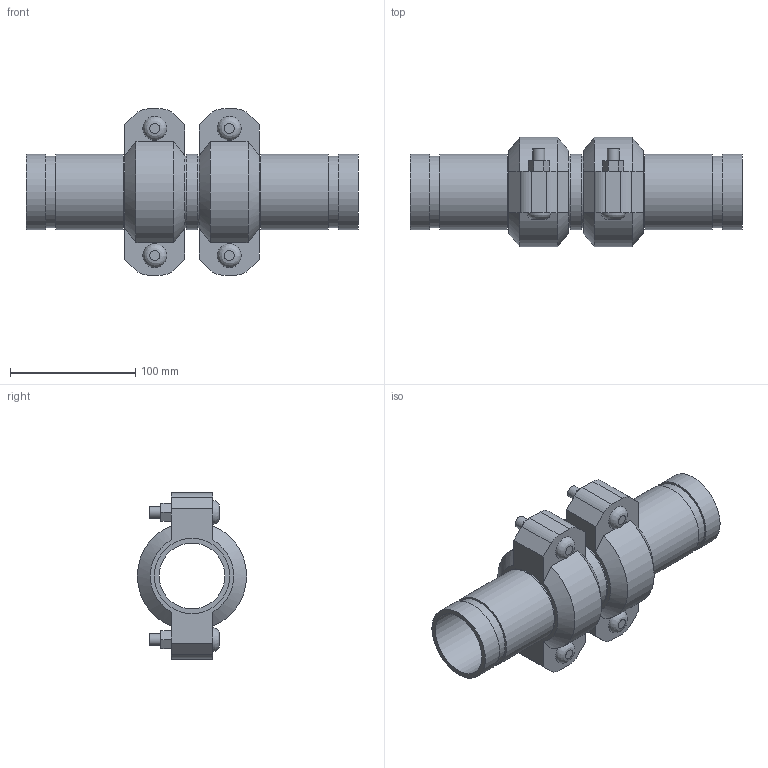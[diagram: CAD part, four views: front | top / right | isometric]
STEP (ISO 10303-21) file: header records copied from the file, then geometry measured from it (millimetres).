
FILE_DESCRIPTION(/* description */ ('VIC SS EXPANSION JOINT 2 COUPLINGS NEUTRAL STYLE 155P (OGS) (POTABLE WATER) ','CAx-IF Rec.Pracs.---Representation and Presentation of Product Manufacturing Information (PMI)---4.0---2014-10-13'),/* implementation_level */ '2;1');
FILE_NAME(/* name */ 'C:\Users\kkamble\AppData\Roaming\Autodesk\ApplicationPlugins\Victaulic.Temp\A659\Victaulic_SS_Expansion Joint_Neutral_2 Couplings_Style 155P (OGS)-Potable Water_2 Coup_Neut_2 (50).stp',/* time_stamp */ '2021-07-16T16:30:54+05:00',/* author */ ('kkamble'),/* organization */ ('Victaulic'),/* preprocessor_version */ 'ST-DEVELOPER v17.2',/* originating_system */ 'Autodesk Inventor 2019',/* authorisation */ '');
FILE_SCHEMA (('AP242_MANAGED_MODEL_BASED_3D_ENGINEERING_MIM_LF { 1 0 10303 442 1 1 4 }'));
Length unit declared in the file: inch
Products named in the file (4): 155P-02.0; Nipple-02.0; Nipple-02.0_1; 075-02.0
Assembly tree (5 placements, depth 2):
  155P-02.0
    Nipple-02.0  x2
    Nipple-02.0_1
    075-02.0  x2
Bounding box: 264.92 x 87.12 x 132.59 mm (x, y, z)
Volume: 568226.6 mm3; surface area: 179147.6 mm2
Topology: 5 solids, 9 shells, 150 faces, 356 edges, 252 vertices
Faces by surface type: plane 90, cylinder 48, cone 8, bspline 4
Full cylindrical faces by diameter (mm): 9.525 x8, 11.43 x4, 52.502 x3, 53.975 x2, 57.15 x6, 60.325 x13
Entity records: 2753 total; most frequent: CARTESIAN_POINT 489, DIRECTION 453, ORIENTED_EDGE 386, EDGE_CURVE 193, AXIS2_PLACEMENT_3D 180, VERTEX_POINT 138, EDGE_LOOP 107, LINE 93
